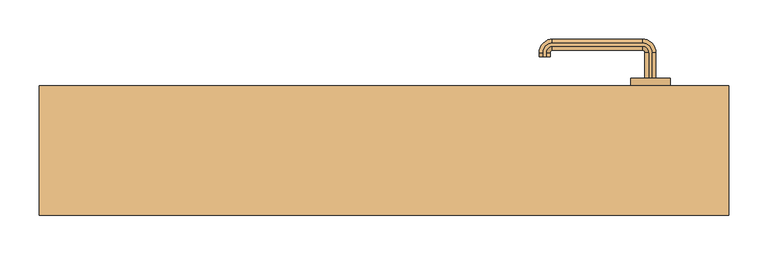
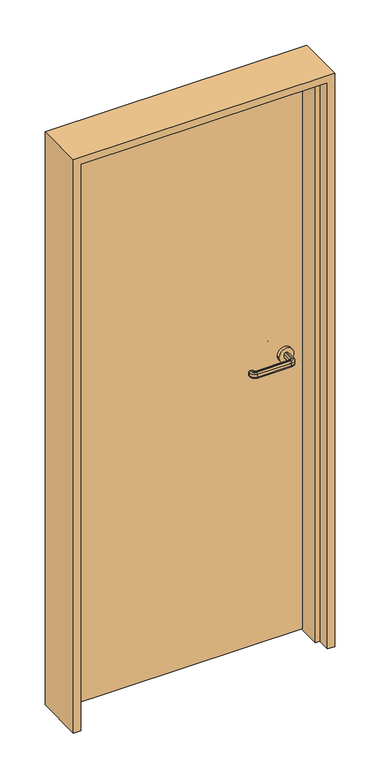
"""IFC4 building model written with IfcOpenShell, lengths in millimetres: door geometry, A1 片開 フラッシュ_A1枠 : SD15_H1800W700."""

from ifc_helpers import new_model, si_unit, point, frame, frame_2d, origin, place, context, project, spatial, polyline, circle_curve, ellipse_curve, trimmed, segment, composite_curve, outline, extrude, faceted_brep, source, transform, mapped, element, save
from ifc_brep_helpers import plane_surface, cylinder_surface, revolved_surface, advanced_brep


def door_2bc840b9(model_context):
    return source(origin(), model_context, "Body", "SolidModel", [
        advanced_brep(
        [(342.0, 92.5, 1015.0), (338.0, 92.5, 1015.0), (333.0, 92.5, 1010.0), (333.0, 92.5, 1000.0477623), (338.0, 92.5, 995.0477623), (342.0, 92.5, 995.0477623), (347.0, 92.5, 1000.0477623), (347.0, 92.5, 1010.0), (347.0, 125.0, 1010.0), (342.0, 125.0, 1015.0), (347.0, 125.0, 1000.0477623), (342.0, 125.0, 995.0477623), (338.0, 125.0, 995.0477623), (330.0, 133.0, 995.0477623), (215.0, 133.0, 995.0477623), (207.0, 125.0, 995.0477623), (207.0, 120.0, 995.0477623), (203.0, 120.0, 995.0477623), (203.0, 125.0, 995.0477623), (215.0, 137.0, 995.0477623), (330.0, 137.0, 995.0477623), (333.0, 125.0, 1000.0477623), (333.0, 125.0, 1010.0), (338.0, 125.0, 1015.0), (330.0, 137.0, 1015.0), (215.0, 137.0, 1015.0), (203.0, 125.0, 1015.0), (203.0, 120.0, 1015.0), (207.0, 120.0, 1015.0), (207.0, 125.0, 1015.0), (215.0, 133.0, 1015.0), (330.0, 133.0, 1015.0), (330.0, 142.0, 1010.0), (330.0, 142.0, 1000.0477623), (330.0, 128.0, 1000.0477623), (330.0, 128.0, 1010.0), (215.0, 142.0, 1010.0), (215.0, 142.0, 1000.0477623), (215.0, 128.0, 1000.0477623), (215.0, 128.0, 1010.0), (198.0, 125.0, 1010.0), (198.0, 125.0, 1000.0477623), (212.0, 125.0, 1000.0477623), (212.0, 125.0, 1010.0), (198.0, 120.0, 1010.0), (198.0, 120.0, 1000.0477623), (212.0, 120.0, 1000.0477623), (212.0, 120.0, 1010.0)],
        [
            (0, 1),
            (1, 2, circle_curve(frame((338.0, 92.5, 1010.0), z_axis=(0.0, -1.0, 0.0), x_axis=(1.0, 0.0, 0.0)), 5.0)),
            (2, 3),
            (3, 4, circle_curve(frame((338.0, 92.5, 1000.0477623), z_axis=(0.0, -1.0, 0.0), x_axis=(1.0, 0.0, 0.0)), 5.0)),
            (4, 5),
            (5, 6, circle_curve(frame((342.0, 92.5, 1000.0477623), z_axis=(0.0, -1.0, 0.0), x_axis=(1.0, 0.0, 0.0)), 5.0)),
            (6, 7),
            (7, 0, circle_curve(frame((342.0, 92.5, 1010.0), z_axis=(0.0, -1.0, 0.0), x_axis=(1.0, 0.0, 0.0)), 5.0)),
            (7, 8),
            (8, 9, circle_curve(frame((342.0, 125.0, 1010.0), z_axis=(0.0, -1.0, 0.0), x_axis=(1.0, 0.0, 0.0)), 5.0)),
            (9, 0),
            (6, 10),
            (10, 8),
            (5, 11),
            (11, 10, circle_curve(frame((342.0, 125.0, 1000.0477623), z_axis=(0.0, -1.0, 0.0), x_axis=(1.0, 0.0, 0.0)), 5.0)),
            (4, 12),
            (12, 13, circle_curve(frame((330.0, 125.0, 995.0477623), z_axis=(0.0, 0.0, 1.0), x_axis=(1.0, 0.0, 0.0)), 8.0)),
            (13, 14),
            (14, 15, circle_curve(frame((215.0, 125.0, 995.0477623), z_axis=(0.0, 0.0, 1.0), x_axis=(0.0, 1.0, 0.0)), 8.0)),
            (15, 16),
            (16, 17),
            (17, 18),
            (18, 19, circle_curve(frame((215.0, 125.0, 995.0477623), z_axis=(0.0, 0.0, -1.0), x_axis=(0.0, 1.0, 0.0)), 12.0)),
            (19, 20),
            (20, 11, circle_curve(frame((330.0, 125.0, 995.0477623), z_axis=(0.0, 0.0, -1.0), x_axis=(1.0, 0.0, 0.0)), 12.0)),
            (3, 21),
            (21, 12, circle_curve(frame((338.0, 125.0, 1000.0477623), z_axis=(0.0, -1.0, 0.0), x_axis=(1.0, 0.0, 0.0)), 5.0)),
            (2, 22),
            (22, 21),
            (1, 23),
            (23, 22, circle_curve(frame((338.0, 125.0, 1010.0), z_axis=(0.0, -1.0, 0.0), x_axis=(1.0, 0.0, 0.0)), 5.0)),
            (9, 24, circle_curve(frame((330.0, 125.0, 1015.0), z_axis=(0.0, 0.0, 1.0), x_axis=(1.0, 0.0, 0.0)), 12.0)),
            (24, 25),
            (25, 26, circle_curve(frame((215.0, 125.0, 1015.0), z_axis=(0.0, 0.0, 1.0), x_axis=(0.0, 1.0, 0.0)), 12.0)),
            (26, 27),
            (27, 28),
            (28, 29),
            (29, 30, circle_curve(frame((215.0, 125.0, 1015.0), z_axis=(0.0, 0.0, -1.0), x_axis=(0.0, 1.0, 0.0)), 8.0)),
            (30, 31),
            (31, 23, circle_curve(frame((330.0, 125.0, 1015.0), z_axis=(0.0, 0.0, -1.0), x_axis=(1.0, 0.0, 0.0)), 8.0)),
            (32, 24, circle_curve(frame((330.0, 137.0, 1010.0), z_axis=(1.0, 0.0, 0.0), x_axis=(0.0, 1.0, 0.0)), 5.0)),
            (8, 32, circle_curve(frame((330.0, 125.0, 1010.0), z_axis=(0.0, 0.0, 1.0), x_axis=(1.0, 0.0, 0.0)), 17.0)),
            (33, 32),
            (10, 33, circle_curve(frame((330.0, 125.0, 1000.0477623), z_axis=(0.0, 0.0, 1.0), x_axis=(1.0, 0.0, 0.0)), 17.0)),
            (20, 33, circle_curve(frame((330.0, 137.0, 1000.0477623), z_axis=(1.0, 0.0, 0.0), x_axis=(0.0, 1.0, 0.0)), 5.0)),
            (34, 13, circle_curve(frame((330.0, 133.0, 1000.0477623), z_axis=(1.0, 0.0, 0.0), x_axis=(0.0, 1.0, 0.0)), 5.0)),
            (21, 34, circle_curve(frame((330.0, 125.0, 1000.0477623), z_axis=(0.0, 0.0, 1.0), x_axis=(1.0, 0.0, 0.0)), 3.0)),
            (35, 34),
            (22, 35, circle_curve(frame((330.0, 125.0, 1010.0), z_axis=(0.0, 0.0, 1.0), x_axis=(1.0, 0.0, 0.0)), 3.0)),
            (31, 35, circle_curve(frame((330.0, 133.0, 1010.0), z_axis=(1.0, 0.0, 0.0), x_axis=(0.0, 1.0, 0.0)), 5.0)),
            (32, 36),
            (36, 25, circle_curve(frame((215.0, 137.0, 1010.0), z_axis=(1.0, 0.0, 0.0), x_axis=(0.0, 1.0, 0.0)), 5.0)),
            (33, 37),
            (37, 36),
            (19, 37, circle_curve(frame((215.0, 137.0, 1000.0477623), z_axis=(1.0, 0.0, 0.0), x_axis=(0.0, 1.0, 0.0)), 5.0)),
            (34, 38),
            (38, 14, circle_curve(frame((215.0, 133.0, 1000.0477623), z_axis=(1.0, 0.0, 0.0), x_axis=(0.0, 1.0, 0.0)), 5.0)),
            (35, 39),
            (39, 38),
            (30, 39, circle_curve(frame((215.0, 133.0, 1010.0), z_axis=(1.0, 0.0, 0.0), x_axis=(0.0, 1.0, 0.0)), 5.0)),
            (40, 26, circle_curve(frame((203.0, 125.0, 1010.0), z_axis=(0.0, 1.0, 0.0), x_axis=(-1.0, 0.0, 0.0)), 5.0)),
            (36, 40, circle_curve(frame((215.0, 125.0, 1010.0), z_axis=(0.0, 0.0, 1.0), x_axis=(0.0, 1.0, 0.0)), 17.0)),
            (41, 40),
            (37, 41, circle_curve(frame((215.0, 125.0, 1000.0477623), z_axis=(0.0, 0.0, 1.0), x_axis=(0.0, 1.0, 0.0)), 17.0)),
            (18, 41, circle_curve(frame((203.0, 125.0, 1000.0477623), z_axis=(0.0, 1.0, 0.0), x_axis=(-1.0, 0.0, 0.0)), 5.0)),
            (42, 15, circle_curve(frame((207.0, 125.0, 1000.0477623), z_axis=(0.0, 1.0, 0.0), x_axis=(-1.0, 0.0, 0.0)), 5.0)),
            (38, 42, circle_curve(frame((215.0, 125.0, 1000.0477623), z_axis=(0.0, 0.0, 1.0), x_axis=(0.0, 1.0, 0.0)), 3.0)),
            (43, 42),
            (39, 43, circle_curve(frame((215.0, 125.0, 1010.0), z_axis=(0.0, 0.0, 1.0), x_axis=(0.0, 1.0, 0.0)), 3.0)),
            (29, 43, circle_curve(frame((207.0, 125.0, 1010.0), z_axis=(0.0, 1.0, 0.0), x_axis=(-1.0, 0.0, 0.0)), 5.0)),
            (27, 44, circle_curve(frame((203.0, 120.0, 1010.0), z_axis=(0.0, -1.0, 0.0), x_axis=(-1.0, 0.0, 0.0)), 5.0)),
            (44, 45),
            (45, 17, circle_curve(frame((203.0, 120.0, 1000.0477623), z_axis=(0.0, -1.0, 0.0), x_axis=(-1.0, 0.0, 0.0)), 5.0)),
            (16, 46, circle_curve(frame((207.0, 120.0, 1000.0477623), z_axis=(0.0, -1.0, 0.0), x_axis=(-1.0, 0.0, 0.0)), 5.0)),
            (46, 47),
            (47, 28, circle_curve(frame((207.0, 120.0, 1010.0), z_axis=(0.0, -1.0, 0.0), x_axis=(-1.0, 0.0, 0.0)), 5.0)),
            (40, 44),
            (41, 45),
            (42, 46),
            (43, 47),
        ],
        [
            plane_surface(frame((350.198039, 92.5, 1005.0), z_axis=(0.0, -1.0, 0.0), x_axis=(0.0, 0.0, 1.0))),
            cylinder_surface(frame((342.0, 92.5, 1010.0), z_axis=(0.0, -1.0, 0.0), x_axis=(1.0, 0.0, 0.0)), 5.0),
            plane_surface(frame((347.0, 92.5, 1010.0), z_axis=(1.0, 0.0, 0.0), x_axis=(0.0, 1.0, 0.0))),
            cylinder_surface(frame((342.0, 92.5, 1000.0477623), z_axis=(0.0, -1.0, 0.0), x_axis=(1.0, 0.0, 0.0)), 5.0),
            plane_surface(frame((342.0, 92.5, 995.0477623), z_axis=(0.0, 0.0, -1.0), x_axis=(0.0, 1.0, 0.0))),
            cylinder_surface(frame((338.0, 92.5, 1000.0477623), z_axis=(0.0, -1.0, 0.0), x_axis=(1.0, 0.0, 0.0)), 5.0),
            plane_surface(frame((333.0, 92.5, 1000.0477623), z_axis=(-1.0, 0.0, 0.0), x_axis=(0.0, 1.0, 0.0))),
            cylinder_surface(frame((338.0, 92.5, 1010.0), z_axis=(0.0, -1.0, 0.0), x_axis=(1.0, 0.0, 0.0)), 5.0),
            plane_surface(frame((338.0, 92.5, 1015.0), z_axis=(0.0, 0.0, 1.0), x_axis=(0.0, 1.0, 0.0))),
            revolved_surface(trimmed(ellipse_curve(frame((342.0, 125.0, 1010.0), z_axis=(0.0, 1.0, 0.0), x_axis=(1.0, 0.0, 0.0)), 5.0, 5.0), [point((342.0, 125.0, 1015.0))], [point((347.0, 125.0, 1010.0))], True, "CARTESIAN"), (330.0, 125.0, 1005.0), (0.0, 0.0, -1.0)),
            cylinder_surface(frame((330.0, 125.0, 1005.0), z_axis=(0.0, 0.0, -1.0), x_axis=(1.0, 0.0, 0.0)), 17.0),
            revolved_surface(trimmed(ellipse_curve(frame((342.0, 125.0, 1000.0477623), z_axis=(0.0, 1.0, 0.0), x_axis=(1.0, 0.0, 0.0)), 5.0, 5.0), [point((347.0, 125.0, 1000.0477623))], [point((342.0, 125.0, 995.0477623))], True, "CARTESIAN"), (330.0, 125.0, 1005.0), (0.0, 0.0, -1.0)),
            revolved_surface(trimmed(ellipse_curve(frame((338.0, 125.0, 1000.0477623), z_axis=(0.0, 1.0, 0.0), x_axis=(1.0, 0.0, 0.0)), 5.0, 5.0), [point((338.0, 125.0, 995.0477623))], [point((333.0, 125.0, 1000.0477623))], True, "CARTESIAN"), (330.0, 125.0, 1005.0), (0.0, 0.0, -1.0)),
            revolved_surface(polyline([(333.0, 125.0, 1000.0477623), (333.0, 125.0, 1010.0)]), (330.0, 125.0, 1005.0), (0.0, 0.0, -1.0)),
            revolved_surface(trimmed(ellipse_curve(frame((338.0, 125.0, 1010.0), z_axis=(0.0, 1.0, 0.0), x_axis=(1.0, 0.0, 0.0)), 5.0, 5.0), [point((333.0, 125.0, 1010.0))], [point((338.0, 125.0, 1015.0))], True, "CARTESIAN"), (330.0, 125.0, 1005.0), (0.0, 0.0, -1.0)),
            cylinder_surface(frame((330.0, 137.0, 1010.0), z_axis=(1.0, 0.0, 0.0), x_axis=(0.0, 1.0, 0.0)), 5.0),
            plane_surface(frame((330.0, 142.0, 1010.0), z_axis=(0.0, 1.0, 0.0), x_axis=(-1.0, 0.0, 0.0))),
            cylinder_surface(frame((330.0, 137.0, 1000.0477623), z_axis=(1.0, 0.0, 0.0), x_axis=(0.0, 1.0, 0.0)), 5.0),
            cylinder_surface(frame((330.0, 133.0, 1000.0477623), z_axis=(1.0, 0.0, 0.0), x_axis=(0.0, 1.0, 0.0)), 5.0),
            plane_surface(frame((330.0, 128.0, 1000.0477623), z_axis=(0.0, -1.0, 0.0), x_axis=(-1.0, 0.0, 0.0))),
            cylinder_surface(frame((330.0, 133.0, 1010.0), z_axis=(1.0, 0.0, 0.0), x_axis=(0.0, 1.0, 0.0)), 5.0),
            revolved_surface(trimmed(ellipse_curve(frame((215.0, 137.0, 1010.0), z_axis=(-1.0, 0.0, 0.0), x_axis=(0.0, 1.0, 0.0)), 5.0, 5.0), [point((215.0, 137.0, 1015.0))], [point((215.0, 142.0, 1010.0))], True, "CARTESIAN"), (215.0, 125.0, 1005.0), (0.0, 0.0, -1.0)),
            cylinder_surface(frame((215.0, 125.0, 1005.0), z_axis=(0.0, 0.0, -1.0), x_axis=(0.0, 1.0, 0.0)), 17.0),
            revolved_surface(trimmed(ellipse_curve(frame((215.0, 137.0, 1000.0477623), z_axis=(-1.0, 0.0, 0.0), x_axis=(0.0, 1.0, 0.0)), 5.0, 5.0), [point((215.0, 142.0, 1000.0477623))], [point((215.0, 137.0, 995.0477623))], True, "CARTESIAN"), (215.0, 125.0, 1005.0), (0.0, 0.0, -1.0)),
            revolved_surface(trimmed(ellipse_curve(frame((215.0, 133.0, 1000.0477623), z_axis=(-1.0, 0.0, 0.0), x_axis=(0.0, 1.0, 0.0)), 5.0, 5.0), [point((215.0, 133.0, 995.0477623))], [point((215.0, 128.0, 1000.0477623))], True, "CARTESIAN"), (215.0, 125.0, 1005.0), (0.0, 0.0, -1.0)),
            revolved_surface(polyline([(215.0, 128.0, 1000.0477623), (215.0, 128.0, 1010.0)]), (215.0, 125.0, 1005.0), (0.0, 0.0, -1.0)),
            revolved_surface(trimmed(ellipse_curve(frame((215.0, 133.0, 1010.0), z_axis=(-1.0, 0.0, 0.0), x_axis=(0.0, 1.0, 0.0)), 5.0, 5.0), [point((215.0, 128.0, 1010.0))], [point((215.0, 133.0, 1015.0))], True, "CARTESIAN"), (215.0, 125.0, 1005.0), (0.0, 0.0, -1.0)),
            plane_surface(frame((215.198039, 120.0, 1005.0), z_axis=(0.0, -1.0, 0.0), x_axis=(0.0, 0.0, -1.0))),
            cylinder_surface(frame((203.0, 125.0, 1010.0), z_axis=(0.0, 1.0, 0.0), x_axis=(-1.0, 0.0, 0.0)), 5.0),
            plane_surface(frame((198.0, 125.0, 1010.0), z_axis=(-1.0, 0.0, 0.0), x_axis=(0.0, -1.0, 0.0))),
            cylinder_surface(frame((203.0, 125.0, 1000.0477623), z_axis=(0.0, 1.0, 0.0), x_axis=(-1.0, 0.0, 0.0)), 5.0),
            cylinder_surface(frame((207.0, 125.0, 1000.0477623), z_axis=(0.0, 1.0, 0.0), x_axis=(-1.0, 0.0, 0.0)), 5.0),
            plane_surface(frame((212.0, 125.0, 1000.0477623), z_axis=(1.0, 0.0, 0.0), x_axis=(0.0, -1.0, 0.0))),
            cylinder_surface(frame((207.0, 125.0, 1010.0), z_axis=(0.0, 1.0, 0.0), x_axis=(-1.0, 0.0, 0.0)), 5.0),
        ],
        [
            (0, [[1, 2, 3, 4, 5, 6, 7, 8]]),
            (1, [[9, 10, 11, -8]]),
            (2, [[12, 13, -9, -7]]),
            (3, [[14, 15, -12, -6]]),
            (4, [[16, 17, 18, 19, 20, 21, 22, 23, 24, 25, -14, -5]]),
            (5, [[26, 27, -16, -4]]),
            (6, [[28, 29, -26, -3]]),
            (7, [[30, 31, -28, -2]]),
            (8, [[-11, 32, 33, 34, 35, 36, 37, 38, 39, 40, -30, -1]]),
            (9, [[41, -32, -10, 42]]),
            (10, [[43, -42, -13, 44]]),
            (11, [[45, -44, -15, -25]]),
            (12, [[46, -17, -27, 47]]),
            (13, [[48, -47, -29, 49]]),
            (14, [[50, -49, -31, -40]]),
            (15, [[51, 52, -33, -41]]),
            (16, [[53, 54, -51, -43]]),
            (17, [[-24, 55, -53, -45]]),
            (18, [[56, 57, -18, -46]]),
            (19, [[58, 59, -56, -48]]),
            (20, [[-39, 60, -58, -50]]),
            (21, [[61, -34, -52, 62]]),
            (22, [[63, -62, -54, 64]]),
            (23, [[65, -64, -55, -23]]),
            (24, [[66, -19, -57, 67]]),
            (25, [[68, -67, -59, 69]]),
            (26, [[70, -69, -60, -38]]),
            (27, [[71, 72, 73, -21, 74, 75, 76, -36]]),
            (28, [[77, -71, -35, -61]]),
            (29, [[78, -72, -77, -63]]),
            (30, [[-22, -73, -78, -65]]),
            (31, [[79, -74, -20, -66]]),
            (32, [[80, -75, -79, -68]]),
            (33, [[-37, -76, -80, -70]]),
        ],
    ),
        advanced_brep(
        [(338.0, 27.5, 995.0), (333.0, 27.5, 1000.0), (333.0, 27.5, 1010.0), (338.0, 27.5, 1015.0), (342.0, 27.5, 1015.0), (347.0, 27.5, 1010.0), (347.0, 27.5, 1000.0), (342.0, 27.5, 995.0), (342.0, -5.0, 995.0), (330.0, -17.0, 995.0), (215.0, -17.0, 995.0), (203.0, -5.0, 995.0), (203.0, 0.0, 995.0), (207.0, 0.0, 995.0), (207.0, -5.0, 995.0), (215.0, -13.0, 995.0), (330.0, -13.0, 995.0), (338.0, -5.0, 995.0), (347.0, -5.0, 1000.0), (347.0, -5.0, 1010.0), (342.0, -5.0, 1015.0), (338.0, -5.0, 1015.0), (330.0, -13.0, 1015.0), (215.0, -13.0, 1015.0), (207.0, -5.0, 1015.0), (207.0, 0.0, 1015.0), (203.0, 0.0, 1015.0), (203.0, -5.0, 1015.0), (215.0, -17.0, 1015.0), (330.0, -17.0, 1015.0), (333.0, -5.0, 1010.0), (333.0, -5.0, 1000.0), (330.0, -22.0, 1000.0), (330.0, -22.0, 1010.0), (330.0, -8.0, 1010.0), (330.0, -8.0, 1000.0), (215.0, -22.0, 1000.0), (215.0, -22.0, 1010.0), (215.0, -8.0, 1010.0), (215.0, -8.0, 1000.0), (198.0, -5.0, 1000.0), (198.0, -5.0, 1010.0), (212.0, -5.0, 1010.0), (212.0, -5.0, 1000.0), (198.0, 0.0, 1000.0), (198.0, 0.0, 1010.0), (212.0, 0.0, 1010.0), (212.0, 0.0, 1000.0)],
        [
            (0, 1, circle_curve(frame((338.0, 27.5, 1000.0), z_axis=(0.0, 1.0, 0.0), x_axis=(-1.0, 0.0, 0.0)), 5.0)),
            (1, 2),
            (2, 3, circle_curve(frame((338.0, 27.5, 1010.0), z_axis=(0.0, 1.0, 0.0), x_axis=(-1.0, 0.0, 0.0)), 5.0)),
            (3, 4),
            (4, 5, circle_curve(frame((342.0, 27.5, 1010.0), z_axis=(0.0, 1.0, 0.0), x_axis=(-1.0, 0.0, 0.0)), 5.0)),
            (5, 6),
            (6, 7, circle_curve(frame((342.0, 27.5, 1000.0), z_axis=(0.0, 1.0, 0.0), x_axis=(-1.0, 0.0, 0.0)), 5.0)),
            (7, 0),
            (7, 8),
            (8, 9, circle_curve(frame((330.0, -5.0, 995.0), z_axis=(0.0, 0.0, -1.0), x_axis=(1.0, 0.0, 0.0)), 12.0)),
            (9, 10),
            (10, 11, circle_curve(frame((215.0, -5.0, 995.0), z_axis=(0.0, 0.0, -1.0), x_axis=(0.0, -1.0, 0.0)), 12.0)),
            (11, 12),
            (12, 13),
            (13, 14),
            (14, 15, circle_curve(frame((215.0, -5.0, 995.0), z_axis=(0.0, 0.0, 1.0), x_axis=(0.0, -1.0, 0.0)), 8.0)),
            (15, 16),
            (16, 17, circle_curve(frame((330.0, -5.0, 995.0), z_axis=(0.0, 0.0, 1.0), x_axis=(1.0, 0.0, 0.0)), 8.0)),
            (17, 0),
            (6, 18),
            (18, 8, circle_curve(frame((342.0, -5.0, 1000.0), z_axis=(0.0, 1.0, 0.0), x_axis=(-1.0, 0.0, 0.0)), 5.0)),
            (5, 19),
            (19, 18),
            (4, 20),
            (20, 19, circle_curve(frame((342.0, -5.0, 1010.0), z_axis=(0.0, 1.0, 0.0), x_axis=(-1.0, 0.0, 0.0)), 5.0)),
            (3, 21),
            (21, 22, circle_curve(frame((330.0, -5.0, 1015.0), z_axis=(0.0, 0.0, -1.0), x_axis=(1.0, 0.0, 0.0)), 8.0)),
            (22, 23),
            (23, 24, circle_curve(frame((215.0, -5.0, 1015.0), z_axis=(0.0, 0.0, -1.0), x_axis=(0.0, -1.0, 0.0)), 8.0)),
            (24, 25),
            (25, 26),
            (26, 27),
            (27, 28, circle_curve(frame((215.0, -5.0, 1015.0), z_axis=(0.0, 0.0, 1.0), x_axis=(0.0, -1.0, 0.0)), 12.0)),
            (28, 29),
            (29, 20, circle_curve(frame((330.0, -5.0, 1015.0), z_axis=(0.0, 0.0, 1.0), x_axis=(1.0, 0.0, 0.0)), 12.0)),
            (2, 30),
            (30, 21, circle_curve(frame((338.0, -5.0, 1010.0), z_axis=(0.0, 1.0, 0.0), x_axis=(-1.0, 0.0, 0.0)), 5.0)),
            (1, 31),
            (31, 30),
            (17, 31, circle_curve(frame((338.0, -5.0, 1000.0), z_axis=(0.0, 1.0, 0.0), x_axis=(-1.0, 0.0, 0.0)), 5.0)),
            (32, 9, circle_curve(frame((330.0, -17.0, 1000.0), z_axis=(1.0, 0.0, 0.0), x_axis=(0.0, 1.0, 0.0)), 5.0)),
            (18, 32, circle_curve(frame((330.0, -5.0, 1000.0), z_axis=(0.0, 0.0, -1.0), x_axis=(1.0, 0.0, 0.0)), 17.0)),
            (33, 32),
            (19, 33, circle_curve(frame((330.0, -5.0, 1010.0), z_axis=(0.0, 0.0, -1.0), x_axis=(1.0, 0.0, 0.0)), 17.0)),
            (29, 33, circle_curve(frame((330.0, -17.0, 1010.0), z_axis=(1.0, 0.0, 0.0), x_axis=(0.0, 1.0, 0.0)), 5.0)),
            (34, 22, circle_curve(frame((330.0, -13.0, 1010.0), z_axis=(1.0, 0.0, 0.0), x_axis=(0.0, 1.0, 0.0)), 5.0)),
            (30, 34, circle_curve(frame((330.0, -5.0, 1010.0), z_axis=(0.0, 0.0, -1.0), x_axis=(1.0, 0.0, 0.0)), 3.0)),
            (35, 34),
            (31, 35, circle_curve(frame((330.0, -5.0, 1000.0), z_axis=(0.0, 0.0, -1.0), x_axis=(1.0, 0.0, 0.0)), 3.0)),
            (16, 35, circle_curve(frame((330.0, -13.0, 1000.0), z_axis=(1.0, 0.0, 0.0), x_axis=(0.0, 1.0, 0.0)), 5.0)),
            (32, 36),
            (36, 10, circle_curve(frame((215.0, -17.0, 1000.0), z_axis=(1.0, 0.0, 0.0), x_axis=(0.0, 1.0, 0.0)), 5.0)),
            (33, 37),
            (37, 36),
            (28, 37, circle_curve(frame((215.0, -17.0, 1010.0), z_axis=(1.0, 0.0, 0.0), x_axis=(0.0, 1.0, 0.0)), 5.0)),
            (34, 38),
            (38, 23, circle_curve(frame((215.0, -13.0, 1010.0), z_axis=(1.0, 0.0, 0.0), x_axis=(0.0, 1.0, 0.0)), 5.0)),
            (35, 39),
            (39, 38),
            (15, 39, circle_curve(frame((215.0, -13.0, 1000.0), z_axis=(1.0, 0.0, 0.0), x_axis=(0.0, 1.0, 0.0)), 5.0)),
            (40, 11, circle_curve(frame((203.0, -5.0, 1000.0), z_axis=(0.0, -1.0, 0.0), x_axis=(1.0, 0.0, 0.0)), 5.0)),
            (36, 40, circle_curve(frame((215.0, -5.0, 1000.0), z_axis=(0.0, 0.0, -1.0), x_axis=(0.0, -1.0, 0.0)), 17.0)),
            (41, 40),
            (37, 41, circle_curve(frame((215.0, -5.0, 1010.0), z_axis=(0.0, 0.0, -1.0), x_axis=(0.0, -1.0, 0.0)), 17.0)),
            (27, 41, circle_curve(frame((203.0, -5.0, 1010.0), z_axis=(0.0, -1.0, 0.0), x_axis=(1.0, 0.0, 0.0)), 5.0)),
            (42, 24, circle_curve(frame((207.0, -5.0, 1010.0), z_axis=(0.0, -1.0, 0.0), x_axis=(1.0, 0.0, 0.0)), 5.0)),
            (38, 42, circle_curve(frame((215.0, -5.0, 1010.0), z_axis=(0.0, 0.0, -1.0), x_axis=(0.0, -1.0, 0.0)), 3.0)),
            (43, 42),
            (39, 43, circle_curve(frame((215.0, -5.0, 1000.0), z_axis=(0.0, 0.0, -1.0), x_axis=(0.0, -1.0, 0.0)), 3.0)),
            (14, 43, circle_curve(frame((207.0, -5.0, 1000.0), z_axis=(0.0, -1.0, 0.0), x_axis=(1.0, 0.0, 0.0)), 5.0)),
            (12, 44, circle_curve(frame((203.0, 0.0, 1000.0), z_axis=(0.0, 1.0, 0.0), x_axis=(1.0, 0.0, 0.0)), 5.0)),
            (44, 45),
            (45, 26, circle_curve(frame((203.0, 0.0, 1010.0), z_axis=(0.0, 1.0, 0.0), x_axis=(1.0, 0.0, 0.0)), 5.0)),
            (25, 46, circle_curve(frame((207.0, 0.0, 1010.0), z_axis=(0.0, 1.0, 0.0), x_axis=(1.0, 0.0, 0.0)), 5.0)),
            (46, 47),
            (47, 13, circle_curve(frame((207.0, 0.0, 1000.0), z_axis=(0.0, 1.0, 0.0), x_axis=(1.0, 0.0, 0.0)), 5.0)),
            (40, 44),
            (41, 45),
            (42, 46),
            (43, 47),
        ],
        [
            plane_surface(frame((350.198039, 27.5, 1005.0), z_axis=(0.0, 1.0, 0.0), x_axis=(0.0, 0.0, -1.0))),
            plane_surface(frame((338.0, 27.5, 995.0), z_axis=(0.0, 0.0, -1.0), x_axis=(0.0, -1.0, 0.0))),
            cylinder_surface(frame((342.0, 27.5, 1000.0), z_axis=(0.0, 1.0, 0.0), x_axis=(-1.0, 0.0, 0.0)), 5.0),
            plane_surface(frame((347.0, 27.5, 1000.0), z_axis=(1.0, 0.0, 0.0), x_axis=(0.0, -1.0, 0.0))),
            cylinder_surface(frame((342.0, 27.5, 1010.0), z_axis=(0.0, 1.0, 0.0), x_axis=(-1.0, 0.0, 0.0)), 5.0),
            plane_surface(frame((342.0, 27.5, 1015.0), z_axis=(0.0, 0.0, 1.0), x_axis=(0.0, -1.0, 0.0))),
            cylinder_surface(frame((338.0, 27.5, 1010.0), z_axis=(0.0, 1.0, 0.0), x_axis=(-1.0, 0.0, 0.0)), 5.0),
            plane_surface(frame((333.0, 27.5, 1010.0), z_axis=(-1.0, 0.0, 0.0), x_axis=(0.0, -1.0, 0.0))),
            cylinder_surface(frame((338.0, 27.5, 1000.0), z_axis=(0.0, 1.0, 0.0), x_axis=(-1.0, 0.0, 0.0)), 5.0),
            revolved_surface(trimmed(ellipse_curve(frame((342.0, -5.0, 1000.0), z_axis=(0.0, -1.0, 0.0), x_axis=(-1.0, 0.0, 0.0)), 5.0, 5.0), [point((342.0, -5.0, 995.0))], [point((347.0, -5.0, 1000.0))], True, "CARTESIAN"), (330.0, -5.0, 1005.0), (0.0, 0.0, 1.0)),
            cylinder_surface(frame((330.0, -5.0, 1005.0), z_axis=(0.0, 0.0, 1.0), x_axis=(1.0, 0.0, 0.0)), 17.0),
            revolved_surface(trimmed(ellipse_curve(frame((342.0, -5.0, 1010.0), z_axis=(0.0, -1.0, 0.0), x_axis=(-1.0, 0.0, 0.0)), 5.0, 5.0), [point((347.0, -5.0, 1010.0))], [point((342.0, -5.0, 1015.0))], True, "CARTESIAN"), (330.0, -5.0, 1005.0), (0.0, 0.0, 1.0)),
            revolved_surface(trimmed(ellipse_curve(frame((338.0, -5.0, 1010.0), z_axis=(0.0, -1.0, 0.0), x_axis=(-1.0, 0.0, 0.0)), 5.0, 5.0), [point((338.0, -5.0, 1015.0))], [point((333.0, -5.0, 1010.0))], True, "CARTESIAN"), (330.0, -5.0, 1005.0), (0.0, 0.0, 1.0)),
            revolved_surface(polyline([(333.0, -5.0, 1010.0), (333.0, -5.0, 1000.0)]), (330.0, -5.0, 1005.0), (0.0, 0.0, 1.0)),
            revolved_surface(trimmed(ellipse_curve(frame((338.0, -5.0, 1000.0), z_axis=(0.0, -1.0, 0.0), x_axis=(-1.0, 0.0, 0.0)), 5.0, 5.0), [point((333.0, -5.0, 1000.0))], [point((338.0, -5.0, 995.0))], True, "CARTESIAN"), (330.0, -5.0, 1005.0), (0.0, 0.0, 1.0)),
            cylinder_surface(frame((330.0, -17.0, 1000.0), z_axis=(1.0, 0.0, 0.0), x_axis=(0.0, 1.0, 0.0)), 5.0),
            plane_surface(frame((330.0, -22.0, 1000.0), z_axis=(0.0, -1.0, 0.0), x_axis=(-1.0, 0.0, 0.0))),
            cylinder_surface(frame((330.0, -17.0, 1010.0), z_axis=(1.0, 0.0, 0.0), x_axis=(0.0, 1.0, 0.0)), 5.0),
            cylinder_surface(frame((330.0, -13.0, 1010.0), z_axis=(1.0, 0.0, 0.0), x_axis=(0.0, 1.0, 0.0)), 5.0),
            plane_surface(frame((330.0, -8.0, 1010.0), z_axis=(0.0, 1.0, 0.0), x_axis=(-1.0, 0.0, 0.0))),
            cylinder_surface(frame((330.0, -13.0, 1000.0), z_axis=(1.0, 0.0, 0.0), x_axis=(0.0, 1.0, 0.0)), 5.0),
            revolved_surface(trimmed(ellipse_curve(frame((215.0, -17.0, 1000.0), z_axis=(-1.0, 0.0, 0.0), x_axis=(0.0, 1.0, 0.0)), 5.0, 5.0), [point((215.0, -17.0, 995.0))], [point((215.0, -22.0, 1000.0))], True, "CARTESIAN"), (215.0, -5.0, 1005.0), (0.0, 0.0, 1.0)),
            cylinder_surface(frame((215.0, -5.0, 1005.0), z_axis=(0.0, 0.0, 1.0), x_axis=(0.0, -1.0, 0.0)), 17.0),
            revolved_surface(trimmed(ellipse_curve(frame((215.0, -17.0, 1010.0), z_axis=(-1.0, 0.0, 0.0), x_axis=(0.0, 1.0, 0.0)), 5.0, 5.0), [point((215.0, -22.0, 1010.0))], [point((215.0, -17.0, 1015.0))], True, "CARTESIAN"), (215.0, -5.0, 1005.0), (0.0, 0.0, 1.0)),
            revolved_surface(trimmed(ellipse_curve(frame((215.0, -13.0, 1010.0), z_axis=(-1.0, 0.0, 0.0), x_axis=(0.0, 1.0, 0.0)), 5.0, 5.0), [point((215.0, -13.0, 1015.0))], [point((215.0, -8.0, 1010.0))], True, "CARTESIAN"), (215.0, -5.0, 1005.0), (0.0, 0.0, 1.0)),
            revolved_surface(polyline([(215.0, -8.0, 1010.0), (215.0, -8.0, 1000.0)]), (215.0, -5.0, 1005.0), (0.0, 0.0, 1.0)),
            revolved_surface(trimmed(ellipse_curve(frame((215.0, -13.0, 1000.0), z_axis=(-1.0, 0.0, 0.0), x_axis=(0.0, 1.0, 0.0)), 5.0, 5.0), [point((215.0, -8.0, 1000.0))], [point((215.0, -13.0, 995.0))], True, "CARTESIAN"), (215.0, -5.0, 1005.0), (0.0, 0.0, 1.0)),
            plane_surface(frame((215.198039, 0.0, 1005.0), z_axis=(0.0, 1.0, 0.0), x_axis=(0.0, 0.0, 1.0))),
            cylinder_surface(frame((203.0, -5.0, 1000.0), z_axis=(0.0, -1.0, 0.0), x_axis=(1.0, 0.0, 0.0)), 5.0),
            plane_surface(frame((198.0, -5.0, 1000.0), z_axis=(-1.0, 0.0, 0.0), x_axis=(0.0, 1.0, 0.0))),
            cylinder_surface(frame((203.0, -5.0, 1010.0), z_axis=(0.0, -1.0, 0.0), x_axis=(1.0, 0.0, 0.0)), 5.0),
            cylinder_surface(frame((207.0, -5.0, 1010.0), z_axis=(0.0, -1.0, 0.0), x_axis=(1.0, 0.0, 0.0)), 5.0),
            plane_surface(frame((212.0, -5.0, 1010.0), z_axis=(1.0, 0.0, 0.0), x_axis=(0.0, 1.0, 0.0))),
            cylinder_surface(frame((207.0, -5.0, 1000.0), z_axis=(0.0, -1.0, 0.0), x_axis=(1.0, 0.0, 0.0)), 5.0),
        ],
        [
            (0, [[1, 2, 3, 4, 5, 6, 7, 8]]),
            (1, [[9, 10, 11, 12, 13, 14, 15, 16, 17, 18, 19, -8]]),
            (2, [[20, 21, -9, -7]]),
            (3, [[22, 23, -20, -6]]),
            (4, [[24, 25, -22, -5]]),
            (5, [[26, 27, 28, 29, 30, 31, 32, 33, 34, 35, -24, -4]]),
            (6, [[36, 37, -26, -3]]),
            (7, [[38, 39, -36, -2]]),
            (8, [[-19, 40, -38, -1]]),
            (9, [[41, -10, -21, 42]]),
            (10, [[43, -42, -23, 44]]),
            (11, [[45, -44, -25, -35]]),
            (12, [[46, -27, -37, 47]]),
            (13, [[48, -47, -39, 49]]),
            (14, [[50, -49, -40, -18]]),
            (15, [[51, 52, -11, -41]]),
            (16, [[53, 54, -51, -43]]),
            (17, [[-34, 55, -53, -45]]),
            (18, [[56, 57, -28, -46]]),
            (19, [[58, 59, -56, -48]]),
            (20, [[-17, 60, -58, -50]]),
            (21, [[61, -12, -52, 62]]),
            (22, [[63, -62, -54, 64]]),
            (23, [[65, -64, -55, -33]]),
            (24, [[66, -29, -57, 67]]),
            (25, [[68, -67, -59, 69]]),
            (26, [[70, -69, -60, -16]]),
            (27, [[-14, 71, 72, 73, -31, 74, 75, 76]]),
            (28, [[77, -71, -13, -61]]),
            (29, [[78, -72, -77, -63]]),
            (30, [[-32, -73, -78, -65]]),
            (31, [[79, -74, -30, -66]]),
            (32, [[80, -75, -79, -68]]),
            (33, [[-15, -76, -80, -70]]),
        ],
    ),
        extrude(outline(composite_curve([segment(trimmed(circle_curve(frame_2d((1005.0, 340.0)), 25.0), [point((1005.0, 365.0))], [point((1005.0, 315.0))], False, "CARTESIAN"), True, "CONTINUOUS"), segment(trimmed(circle_curve(frame_2d((1005.0, 340.0)), 25.0), [point((1005.0, 315.0))], [point((1005.0, 365.0))], False, "CARTESIAN"), True, "CONTINUOUS")], self_intersect=False)), frame((0.0, 82.5, 0.0), z_axis=(0.0, 1.0, 0.0), x_axis=(0.0, 0.0, 1.0)), (0.0, 0.0, 1.0), 10.0),
        extrude(outline(composite_curve([segment(trimmed(circle_curve(frame_2d((1005.0, 340.0)), 25.0), [point((1005.0, 365.0))], [point((1005.0, 315.0))], False, "CARTESIAN"), True, "CONTINUOUS"), segment(trimmed(circle_curve(frame_2d((1005.0, 340.0)), 25.0), [point((1005.0, 315.0))], [point((1005.0, 365.0))], False, "CARTESIAN"), True, "CONTINUOUS")], self_intersect=False)), frame((0.0, 27.5, 0.0), z_axis=(0.0, 1.0, 0.0), x_axis=(0.0, 0.0, 1.0)), (0.0, 0.0, 1.0), 10.0),
        extrude(outline(polyline([(-415.0, 37.5), (-415.0, 82.5), (415.0, 82.5), (415.0, 37.5), (-415.0, 37.5)])), frame((0.0, 0.0, 5.0), z_axis=(0.0, 0.0, 1.0), x_axis=(1.0, 0.0, 0.0)), (0.0, 0.0, 1.0), 2010.0),
        faceted_brep([(-440.0, 82.5, 0.0), (-415.0, 82.5, 0.0), (-415.0, 37.5, 0.0), (-400.0, 37.5, 0.0), (-400.0, -37.5, 0.0), (-415.0, -37.5, 0.0), (-415.0, -82.5, 0.0), (-440.0, -82.5, 0.0), (-440.0, 82.5, 2040.0), (440.0, 82.5, 2040.0), (440.0, 82.5, 0.0), (415.0, 82.5, 0.0), (415.0, 82.5, 2015.0), (-415.0, 82.5, 2015.0), (-415.0, 37.5, 2015.0), (415.0, 37.5, 2015.0), (415.0, 37.5, 0.0), (400.0, 37.5, 0.0), (400.0, 37.5, 2000.0), (-400.0, 37.5, 2000.0), (-400.0, -37.5, 2000.0), (400.0, -37.5, 2000.0), (400.0, -37.5, 0.0), (415.0, -37.5, 0.0), (415.0, -37.5, 2015.0), (-415.0, -37.5, 2015.0), (-415.0, -82.5, 2015.0), (415.0, -82.5, 2015.0), (415.0, -82.5, 0.0), (440.0, -82.5, 0.0), (440.0, -82.5, 2040.0), (-440.0, -82.5, 2040.0)], [[[0, 1, 2, 3, 4, 5, 6, 7]], [[1, 0, 8, 9, 10, 11, 12, 13]], [[2, 1, 13, 14]], [[3, 2, 14, 15, 16, 17, 18, 19]], [[4, 3, 19, 20]], [[5, 4, 20, 21, 22, 23, 24, 25]], [[6, 5, 25, 26]], [[7, 6, 26, 27, 28, 29, 30, 31]], [[0, 7, 31, 8]], [[14, 13, 12, 15]], [[20, 19, 18, 21]], [[26, 25, 24, 27]], [[8, 31, 30, 9]], [[10, 29, 28, 23, 22, 17, 16, 11]], [[15, 12, 11, 16]], [[21, 18, 17, 22]], [[27, 24, 23, 28]], [[9, 30, 29, 10]]]),
    ])


if __name__ == "__main__":
    model = new_model("IFC4")
    model_context = context("Model", 3, world=origin())
    ifc_project = project(units=[si_unit("LENGTHUNIT", "METRE", prefix="MILLI")], contexts=[model_context])
    site = spatial("IfcSite", under=ifc_project)
    building = spatial("IfcBuilding", under=site)
    placement = place(None, origin())
    door_shape = door_2bc840b9(model_context)
    element("IfcDoor", 1, ObjectType="A1 片開 フラッシュ_A1枠 : SD15_H1800W700", at=placement, inside=building, context=model_context, shape_type="MappedRepresentation", body=[
        mapped(door_shape, transform((0.0, 0.0, 0.0), x_axis=(1.0, 0.0, 0.0), y_axis=(0.0, 1.0, 0.0), z_axis=(0.0, 0.0, 1.0))),
    ])
    save(model, "model.ifc")
